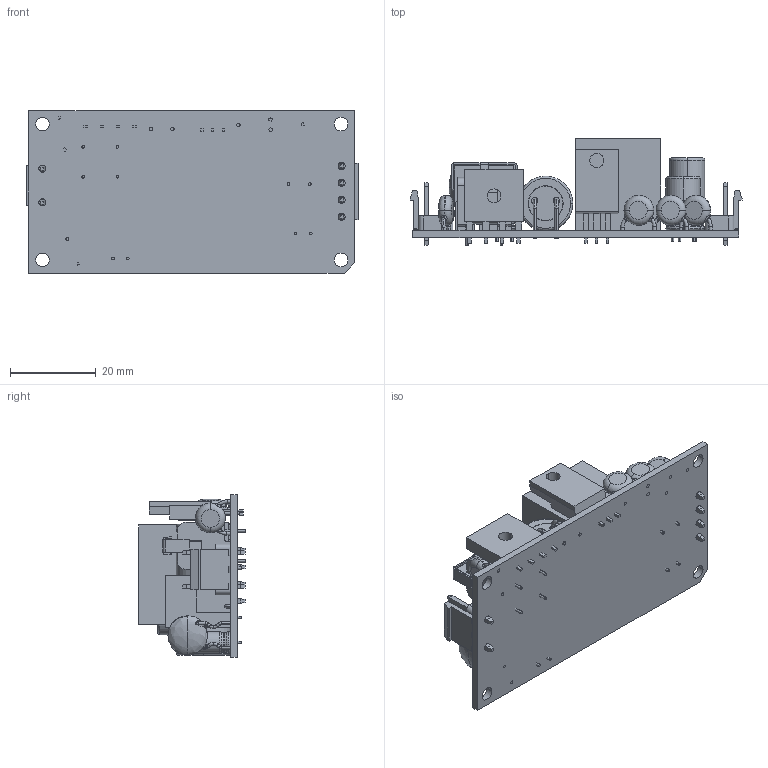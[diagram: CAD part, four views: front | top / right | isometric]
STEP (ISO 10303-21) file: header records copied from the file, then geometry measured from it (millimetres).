
FILE_DESCRIPTION (( 'STEP AP203' ), '1' );
FILE_NAME ('CFM36SAXXX-T (M-B117-F)(V1.0) ¦¨«~¹Ï-1130715.STEP', '2024-09-02T00:20:17', ( 'cincon' ), ( '' ), 'SwSTEP 2.0', 'SolidWorks 2020', '' );
FILE_SCHEMA (( 'CONFIG_CONTROL_DESIGN' ));
Length unit declared in the file: millimetre
Products named in the file (14): CFM40M UZ2 990210; CFM36SBXXX-T PCB-1110610; 8.2x17mm電容; VCE20H L1變壓器示意圖-1090604; 電晶體FCH10A20 TO-220F示意圖; Electrolitic Capacitor Radial (5X11.8); CFM40M 4PIN 插座990210; D4; 8x12.6mm電容; 12.7x30.7mm電容; CFM04 CY1示意圖; CFM36 BR1-1090826; CFM36SAXXX-T (M-B117-F)(V1.0) 成品圖-1130715; CFM201S ´¡2PIN 3PIN´¡®y990209
Assembly tree (16 placements, depth 2):
  CFM36SAXXX-T (M-B117-F)(V1.0) 成品圖-1130715
    CFM36SBXXX-T PCB-1110610
    D4
    Electrolitic Capacitor Radial (5X11.8)
    CFM40M UZ2 990210
    8.2x17mm電容
    8x12.6mm電容
    CFM04 CY1示意圖  x4
    電晶體FCH10A20 TO-220F示意圖
    VCE20H L1變壓器示意圖-1090604
    12.7x30.7mm電容
    CFM40M 4PIN 插座990210
    CFM201S ´¡2PIN 3PIN´¡®y990209
    CFM36 BR1-1090826
Bounding box: 77.65 x 25 x 38.1 mm (x, y, z)
Volume: 26001.6 mm3; surface area: 16149.6 mm2
Topology: 16 solids, 16 shells, 757 faces, 1852 edges, 1160 vertices
Faces by surface type: plane 414, cylinder 183, torus 104, bspline 52, cone 4
Entity records: 22691 total; most frequent: CARTESIAN_POINT 5020, DIRECTION 3408, ORIENTED_EDGE 3300, EDGE_CURVE 1650, AXIS2_PLACEMENT_3D 1161, VECTOR 1086, LINE 1086, VERTEX_POINT 1040
